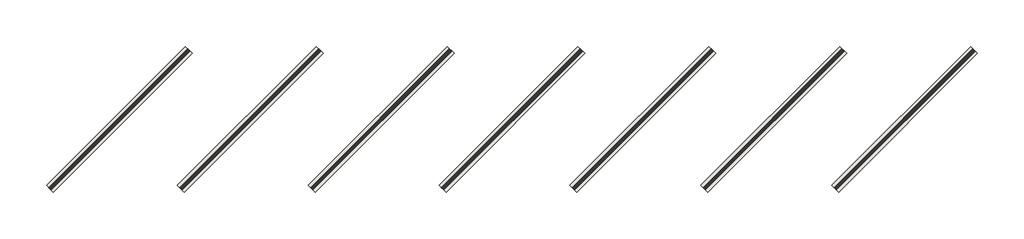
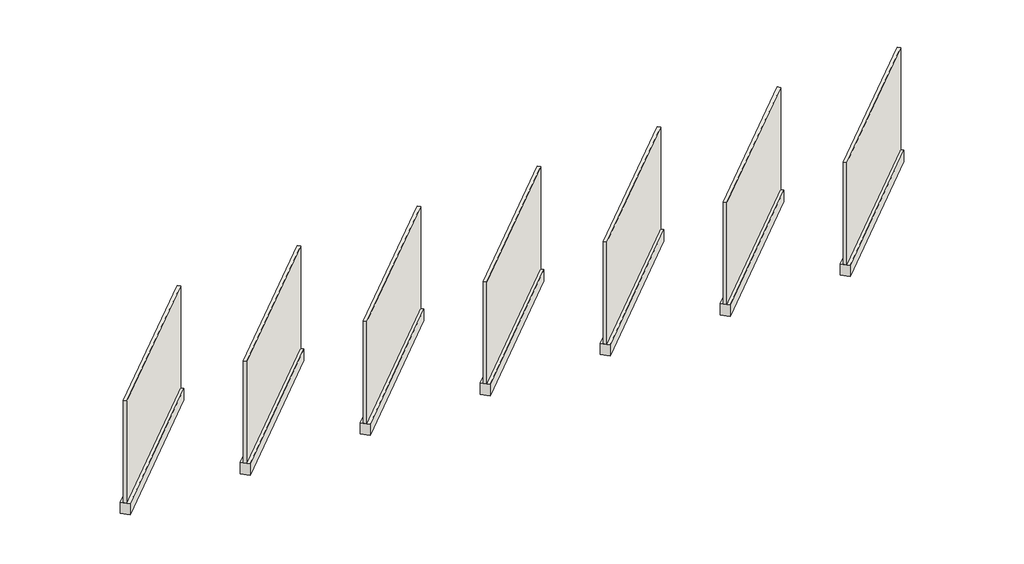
# One storey: 14 walls.
"""IFC4 building model written with IfcOpenShell, lengths in millimetres."""

from ifc_helpers import new_model, si_unit, frame, origin, origin_with_axes, place, context, project, spatial, polyline, outline, extrude, element, save

model = new_model("IFC4")

# Units and contexts
model_context = context("Model", 3, world=origin())
ifc_project = project(units=[si_unit("LENGTHUNIT", "METRE", prefix="MILLI")], contexts=[model_context])

# Site, building, storey
site = spatial("IfcSite", under=ifc_project)
building = spatial("IfcBuilding", under=site)
storey = spatial("IfcBuildingStorey", under=building, Name="Ashlar Pioneer Stone", Elevation=0.0)

# Walls
placement = place(None, origin())
element("IfcWall", 1, ObjectType="Ashlar_Autumn", at=placement, inside=storey, context=model_context, shape_type="SweptSolid", body=[
    extrude(outline(polyline([(-20734.5068952, 7411.09097), (-23967.3990988, 4178.1987664), (-24021.2806355, 4232.0803031), (-20788.388432, 7464.9725067), (-20734.5068952, 7411.09097)])), frame((0.0, 0.0, 304.8), z_axis=(0.0, 0.0, 1.0), x_axis=(1.0, 0.0, 0.0)), (0.0, 0.0, 1.0), 2743.2),
])
element("IfcWall", 2, ObjectType="Ashlar_Colorado", at=placement, inside=storey, context=model_context, shape_type="SweptSolid", body=[
    extrude(outline(polyline([(-17686.5068952, 7411.09097), (-20919.3990988, 4178.1987664), (-20973.2806355, 4232.0803031), (-17740.388432, 7464.9725067), (-17686.5068952, 7411.09097)])), frame((0.0, 0.0, 304.8), z_axis=(0.0, 0.0, 1.0), x_axis=(1.0, 0.0, 0.0)), (0.0, 0.0, 1.0), 2743.2),
])
element("IfcWall", 3, ObjectType="Ashlar_Mojave", at=placement, inside=storey, context=model_context, shape_type="SweptSolid", body=[
    extrude(outline(polyline([(-14638.5068952, 7411.09097), (-17871.3990988, 4178.1987664), (-17925.2806355, 4232.0803031), (-14692.388432, 7464.9725067), (-14638.5068952, 7411.09097)])), frame((0.0, 0.0, 304.8), z_axis=(0.0, 0.0, 1.0), x_axis=(1.0, 0.0, 0.0)), (0.0, 0.0, 1.0), 2743.2),
])
element("IfcWall", 4, ObjectType="Ashlar_Nevada", at=placement, inside=storey, context=model_context, shape_type="SweptSolid", body=[
    extrude(outline(polyline([(-11590.5068952, 7411.09097), (-14823.3990988, 4178.1987664), (-14877.2806355, 4232.0803031), (-11644.388432, 7464.9725067), (-11590.5068952, 7411.09097)])), frame((0.0, 0.0, 304.8), z_axis=(0.0, 0.0, 1.0), x_axis=(1.0, 0.0, 0.0)), (0.0, 0.0, 1.0), 2743.2),
])
element("IfcWall", 5, ObjectType="Ashlar_Refton", at=placement, inside=storey, context=model_context, shape_type="SweptSolid", body=[
    extrude(outline(polyline([(-8542.5068952, 7411.09097), (-11775.3990988, 4178.1987664), (-11829.2806355, 4232.0803031), (-8596.388432, 7464.9725067), (-8542.5068952, 7411.09097)])), frame((0.0, 0.0, 304.8), z_axis=(0.0, 0.0, 1.0), x_axis=(1.0, 0.0, 0.0)), (0.0, 0.0, 1.0), 2743.2),
])
element("IfcWall", 6, ObjectType="Ashlar_Sarasota", at=placement, inside=storey, context=model_context, shape_type="SweptSolid", body=[
    extrude(outline(polyline([(-5494.5068952, 7411.09097), (-8727.3990988, 4178.1987664), (-8781.2806355, 4232.0803031), (-5548.388432, 7464.9725067), (-5494.5068952, 7411.09097)])), frame((0.0, 0.0, 304.8), z_axis=(0.0, 0.0, 1.0), x_axis=(1.0, 0.0, 0.0)), (0.0, 0.0, 1.0), 2743.2),
])
element("IfcWall", 7, ObjectType="Ashlar_Timbercreek", at=placement, inside=storey, context=model_context, shape_type="SweptSolid", body=[
    extrude(outline(polyline([(-2446.5068952, 7411.09097), (-5679.3990988, 4178.1987664), (-5733.2806355, 4232.0803031), (-2500.388432, 7464.9725067), (-2446.5068952, 7411.09097)])), frame((0.0, 0.0, 304.8), z_axis=(0.0, 0.0, 1.0), x_axis=(1.0, 0.0, 0.0)), (0.0, 0.0, 1.0), 2743.2),
])
element("IfcWall", 8, ObjectType="Generic 9\"", at=placement, inside=storey, context=model_context, shape_type="SweptSolid", body=[
    extrude(outline(polyline([(-20680.6253585, 7357.2094332), (-23913.5175621, 4124.3172297), (-24075.1621723, 4285.9618398), (-20842.2699687, 7518.8540434), (-20680.6253585, 7357.2094332)])), origin_with_axes(), (0.0, 0.0, 1.0), 304.8),
])
element("IfcWall", 9, ObjectType="Generic 9\"", at=placement, inside=storey, context=model_context, shape_type="SweptSolid", body=[
    extrude(outline(polyline([(-17632.6253585, 7357.2094332), (-20865.5175621, 4124.3172297), (-21027.1621723, 4285.9618398), (-17794.2699687, 7518.8540434), (-17632.6253585, 7357.2094332)])), origin_with_axes(), (0.0, 0.0, 1.0), 304.8),
])
element("IfcWall", 10, ObjectType="Generic 9\"", at=placement, inside=storey, context=model_context, shape_type="SweptSolid", body=[
    extrude(outline(polyline([(-14584.6253585, 7357.2094332), (-17817.5175621, 4124.3172297), (-17979.1621723, 4285.9618398), (-14746.2699687, 7518.8540434), (-14584.6253585, 7357.2094332)])), origin_with_axes(), (0.0, 0.0, 1.0), 304.8),
])
element("IfcWall", 11, ObjectType="Generic 9\"", at=placement, inside=storey, context=model_context, shape_type="SweptSolid", body=[
    extrude(outline(polyline([(-11536.6253585, 7357.2094332), (-14769.5175621, 4124.3172297), (-14931.1621723, 4285.9618398), (-11698.2699687, 7518.8540434), (-11536.6253585, 7357.2094332)])), origin_with_axes(), (0.0, 0.0, 1.0), 304.8),
])
element("IfcWall", 12, ObjectType="Generic 9\"", at=placement, inside=storey, context=model_context, shape_type="SweptSolid", body=[
    extrude(outline(polyline([(-8488.6253585, 7357.2094332), (-11721.5175621, 4124.3172297), (-11883.1621723, 4285.9618398), (-8650.2699687, 7518.8540434), (-8488.6253585, 7357.2094332)])), origin_with_axes(), (0.0, 0.0, 1.0), 304.8),
])
element("IfcWall", 13, ObjectType="Generic 9\"", at=placement, inside=storey, context=model_context, shape_type="SweptSolid", body=[
    extrude(outline(polyline([(-5440.6253585, 7357.2094332), (-8673.5175621, 4124.3172297), (-8835.1621723, 4285.9618398), (-5602.2699687, 7518.8540434), (-5440.6253585, 7357.2094332)])), origin_with_axes(), (0.0, 0.0, 1.0), 304.8),
])
element("IfcWall", 14, ObjectType="Generic 9\"", at=placement, inside=storey, context=model_context, shape_type="SweptSolid", body=[
    extrude(outline(polyline([(-2392.6253585, 7357.2094332), (-5625.5175621, 4124.3172297), (-5787.1621723, 4285.9618398), (-2554.2699687, 7518.8540434), (-2392.6253585, 7357.2094332)])), origin_with_axes(), (0.0, 0.0, 1.0), 304.8),
])

save(model, "model.ifc")
